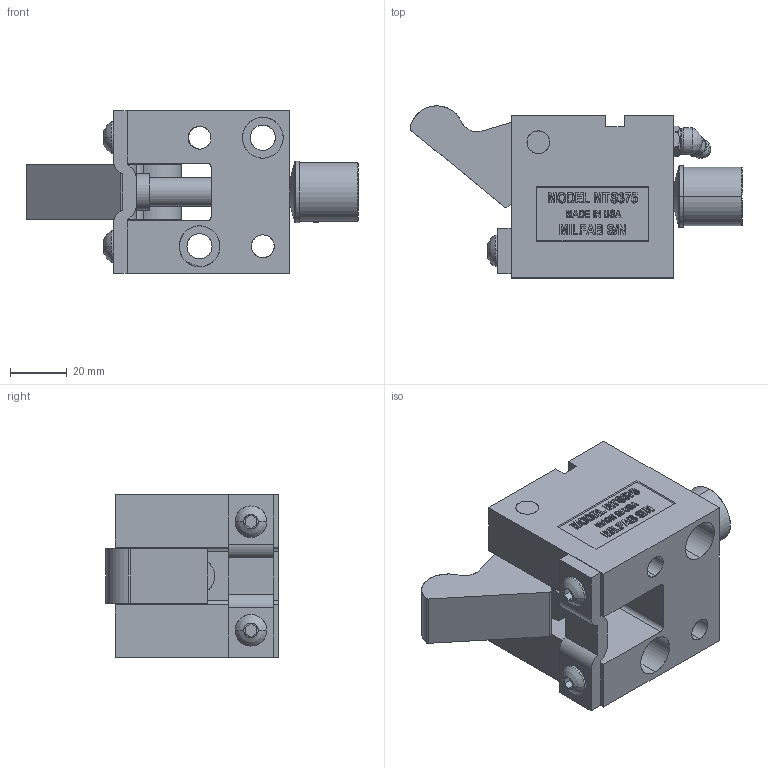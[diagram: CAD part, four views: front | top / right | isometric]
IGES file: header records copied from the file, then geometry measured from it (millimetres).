
Start section: SolidWorks IGES file using analytic representation for surfaces
Global section: file name: Y:\METRIC With OFFSETRIGGER\TOPMOUNT\MTS37545\OPEN\MTS37545-O.IGS; native system: SolidWorks 2006 by SolidWorks Corporation; preprocessor: SolidWorks 2006 by SolidWorks Corporation; author: Jim; date: 090121.180355; units: inch
Bounding box: 116.56 x 60.44 x 57.15 mm (x, y, z)
Surface area: 47806.4 mm2 (no closed solid volume)
Topology: 0 solids, 0 shells, 594 faces, 7011 edges, 7007 vertices
Faces by surface type: bspline 468, revolution 126
